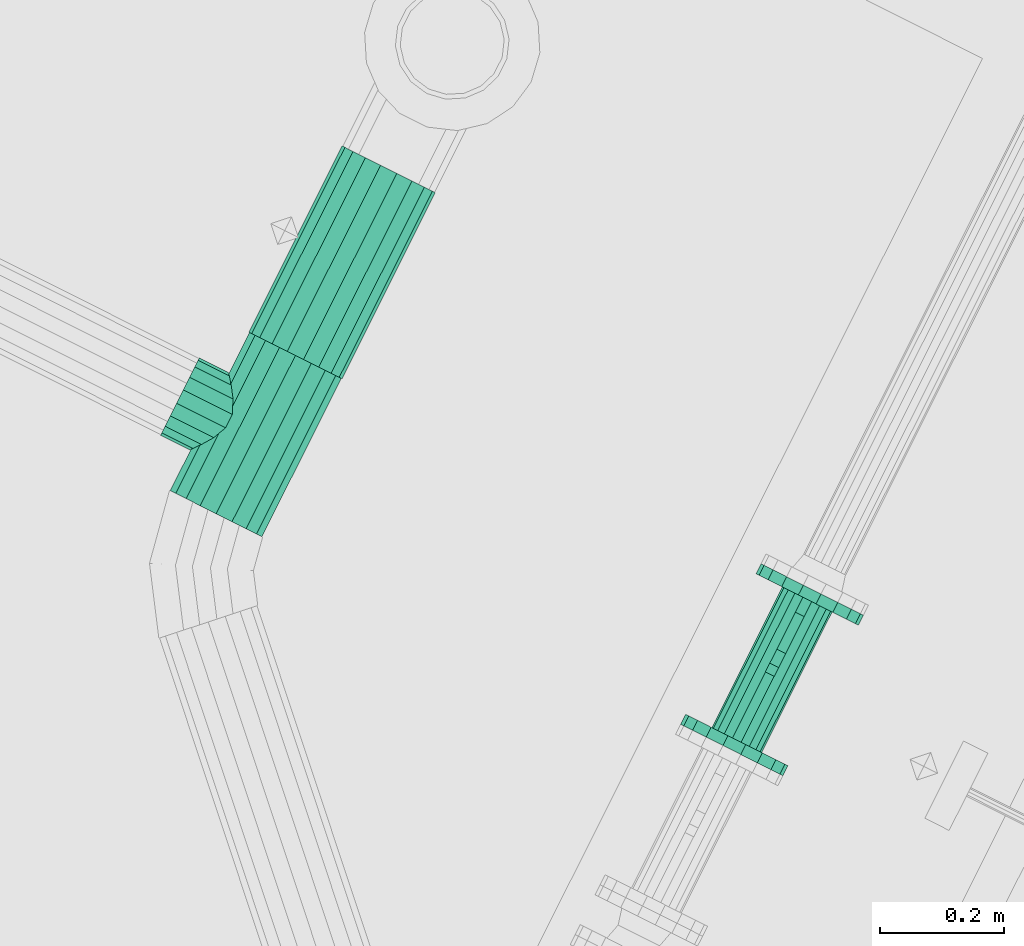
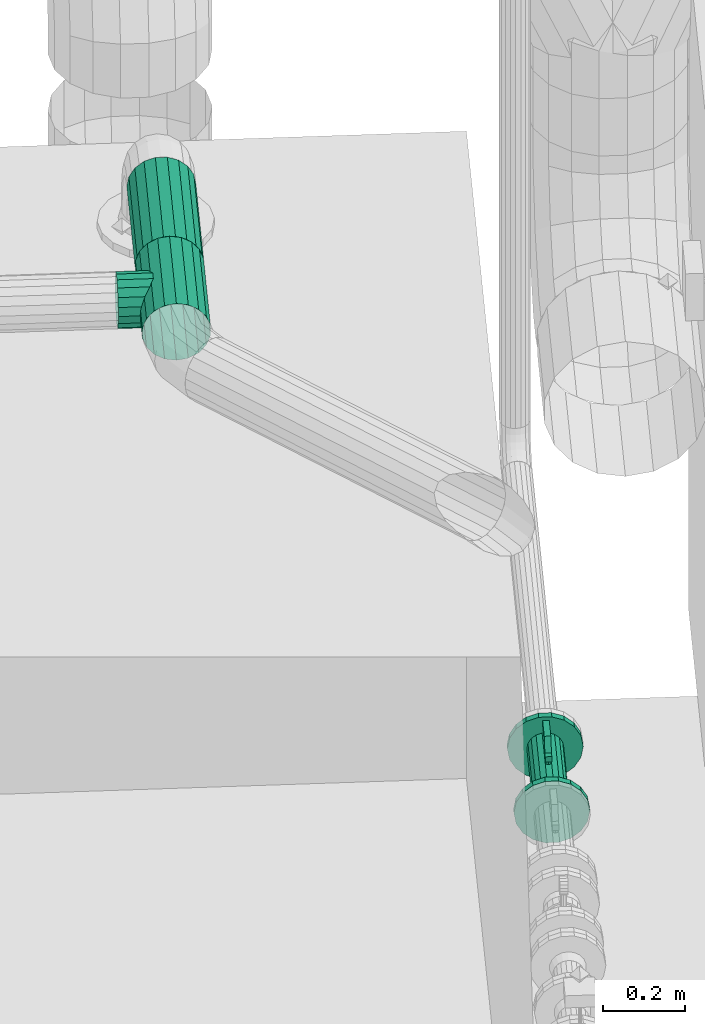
# One storey, part 114 of 206: 1 flow controller, 1 flow fitting, 1 flow segment.
"""IFC2X3 building model written with IfcOpenShell, lengths in metres."""

from ifc_helpers import new_model, si_unit, derived_unit, direction, frame, origin, place, context, subcontext, project, spatial, face_set, surface_model, source, transform, mapped, material, type_object, type_shapes, element, save


model = new_model("IFC2X3")

# Units and contexts
model_context = context("Model", 3, precision=5.2338327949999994e-05, world=origin(), true_north=direction((0.0, 1.0)))
body_context = subcontext(model_context, "Body", "Model", "MODEL_VIEW")
ifc_project = project(units=[si_unit("LENGTHUNIT", "METRE"), si_unit("AREAUNIT", "SQUARE_METRE"), si_unit("VOLUMEUNIT", "CUBIC_METRE"), si_unit("MASSUNIT", "GRAM", prefix="KILO"), si_unit("PLANEANGLEUNIT", "RADIAN"), derived_unit("THERMALTRANSMITTANCEUNIT", [(si_unit("MASSUNIT", "GRAM", prefix="KILO"), 1), (si_unit("THERMODYNAMICTEMPERATUREUNIT", "KELVIN"), -1), (si_unit("TIMEUNIT", "SECOND"), -3)])], contexts=[model_context])

# Site, building, storey
site_placement = place(None, frame((0.0, 0.0, 0.0), z_axis=(0.0, 0.0, 1.0), x_axis=(0.8939966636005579, -0.4480736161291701, 0.0)))
site = spatial("IfcSite", under=ifc_project, at=site_placement, Name="Default", CompositionType="ELEMENT")
building_placement = place(site_placement, origin())
building = spatial("IfcBuilding", under=site, at=building_placement, CompositionType="ELEMENT")
storey_placement = place(building_placement, origin())
storey = spatial("IfcBuildingStorey", under=building, at=storey_placement, Name="Erdgeschoss", CompositionType="ELEMENT", Elevation=0.0)

# Flow fitting
ifc_material_1 = material(Name="IfcSurfaceStyle #9317")
distribution_element_type_1 = type_object("IfcDistributionElementType", Name="Abzweigstück 316911:Abzweigstück 316911", material=ifc_material_1)
shared_shape_1 = source(origin(), body_context, "Body", "SurfaceModel", [
    surface_model("IfcFaceBasedSurfaceModel", [(21.44094787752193, 6.5159610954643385, 2.4381499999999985), (21.469728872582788, 6.5159610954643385, 2.433075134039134), (21.469728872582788, 6.801961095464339, 2.433075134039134), (21.44094787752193, 6.801961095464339, 2.4381499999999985), (21.495038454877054, 6.5159610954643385, 2.4184626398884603), (21.495038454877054, 6.801961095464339, 2.4184626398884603), (21.51382391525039, 6.5159610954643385, 2.396075), (21.51382391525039, 6.801961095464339, 2.396075), (21.523819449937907, 6.5159610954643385, 2.36861249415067), (21.523819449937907, 6.801961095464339, 2.36861249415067), (21.523819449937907, 6.5159610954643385, 2.339387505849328), (21.523819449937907, 6.801961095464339, 2.339387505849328), (21.51382391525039, 6.5159610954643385, 2.3119250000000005), (21.51382391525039, 6.801961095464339, 2.3119250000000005), (21.495038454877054, 6.5159610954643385, 2.28953736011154), (21.495038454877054, 6.801961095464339, 2.28953736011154), (21.469728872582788, 6.5159610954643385, 2.2749248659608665), (21.469728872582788, 6.801961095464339, 2.2749248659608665), (21.44094787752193, 6.515961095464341, 2.26985), (21.44094787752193, 6.801961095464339, 2.2698500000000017), (21.412166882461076, 6.5159610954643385, 2.2749248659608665), (21.412166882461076, 6.801961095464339, 2.2749248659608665), (21.38685730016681, 6.5159610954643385, 2.289537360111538), (21.38685730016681, 6.801961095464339, 2.289537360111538), (21.36807183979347, 6.5159610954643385, 2.311925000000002), (21.36807183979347, 6.801961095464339, 2.311925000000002), (21.358076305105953, 6.5159610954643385, 2.339387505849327), (21.358076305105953, 6.801961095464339, 2.339387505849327), (21.358076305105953, 6.5159610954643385, 2.3686124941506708), (21.358076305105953, 6.801961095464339, 2.3686124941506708), (21.368071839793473, 6.5159610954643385, 2.396075), (21.368071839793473, 6.801961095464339, 2.396075), (21.38685730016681, 6.5159610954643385, 2.4184626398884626), (21.38685730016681, 6.801961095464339, 2.4184626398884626), (21.41216688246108, 6.5159610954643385, 2.433075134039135), (21.41216688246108, 6.801961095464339, 2.433075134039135), (21.356797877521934, 6.728811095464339, 2.3540000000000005), (21.360260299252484, 6.724598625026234, 2.330109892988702), (21.30394787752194, 6.724598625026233, 2.3301098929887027), (21.30394787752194, 6.728811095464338, 2.3540000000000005), (21.36977676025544, 6.7124692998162, 2.3091012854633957), (21.303947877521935, 6.712469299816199, 2.3091012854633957), (21.382450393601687, 6.6938860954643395, 2.2935081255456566), (21.30394787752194, 6.6938860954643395, 2.293508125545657), (21.39247808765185, 6.671090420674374, 2.285211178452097), (21.303947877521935, 6.671090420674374, 2.2852111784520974), (21.39247808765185, 6.646831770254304, 2.285211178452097), (21.303947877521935, 6.646831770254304, 2.2852111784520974), (21.382450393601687, 6.624036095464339, 2.293508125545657), (21.30394787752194, 6.624036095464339, 2.2935081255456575), (21.36977676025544, 6.60545289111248, 2.3091012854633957), (21.303947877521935, 6.6054528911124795, 2.3091012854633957), (21.360260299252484, 6.593323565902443, 2.330109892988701), (21.30394787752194, 6.593323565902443, 2.330109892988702), (21.356797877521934, 6.5891110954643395, 2.3540000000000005), (21.30394787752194, 6.5891110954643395, 2.3540000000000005), (21.360260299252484, 6.593323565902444, 2.3778901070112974), (21.303947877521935, 6.593323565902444, 2.3778901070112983), (21.36977676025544, 6.6054528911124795, 2.398898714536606), (21.303947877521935, 6.6054528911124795, 2.3988987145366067), (21.382450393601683, 6.624036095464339, 2.414491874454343), (21.303947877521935, 6.624036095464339, 2.4144918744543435), (21.39247808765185, 6.646831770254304, 2.422788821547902), (21.303947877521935, 6.646831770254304, 2.422788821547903), (21.39247808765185, 6.671090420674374, 2.4227888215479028), (21.303947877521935, 6.671090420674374, 2.4227888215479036), (21.382450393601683, 6.6938860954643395, 2.4144918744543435), (21.303947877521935, 6.6938860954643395, 2.414491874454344), (21.36977676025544, 6.7124692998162, 2.398898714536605), (21.303947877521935, 6.7124692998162, 2.398898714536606), (21.360260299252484, 6.724598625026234, 2.3778901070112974), (21.303947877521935, 6.724598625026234, 2.3778901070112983)], [face_set([[[0, 1, 2, 3]], [[1, 4, 5, 2]], [[4, 6, 7, 5]], [[6, 8, 9, 7]], [[8, 10, 11, 9]], [[10, 12, 13, 11]], [[12, 14, 15, 13]], [[14, 16, 17, 15]], [[16, 18, 19, 17]], [[18, 20, 21, 19]], [[20, 22, 23, 21]], [[22, 24, 25, 23]], [[24, 26, 27, 25]], [[26, 28, 29, 27]], [[28, 30, 31, 29]], [[30, 32, 33, 31]], [[32, 34, 35, 33]], [[34, 0, 3, 35]], [[36, 37, 38, 39]], [[37, 40, 41, 38]], [[40, 42, 43, 41]], [[42, 44, 45, 43]], [[44, 46, 47, 45]], [[46, 48, 49, 47]], [[48, 50, 51, 49]], [[50, 52, 53, 51]], [[52, 54, 55, 53]], [[54, 56, 57, 55]], [[56, 58, 59, 57]], [[58, 60, 61, 59]], [[60, 62, 63, 61]], [[62, 64, 65, 63]], [[64, 66, 67, 65]], [[66, 68, 69, 67]], [[68, 70, 71, 69]], [[70, 36, 39, 71]]])]),
])
type_shapes(distribution_element_type_1, [shared_shape_1])
flow_fitting_placement = place(storey_placement, origin())
element("IfcFlowFitting", 1, at=flow_fitting_placement, inside=storey, type_object=distribution_element_type_1, material=ifc_material_1, Name="Abzweigstück", ObjectType="Abzweigstück", context=body_context, shape_type="MappedRepresentation", body=[
    mapped(shared_shape_1, transform((0.0, 0.0, 0.0), scale=1.0)),
])

# Flow segment
distribution_element_type_2 = type_object("IfcDistributionElementType", Name="Stahlrohr nach DIN 2448 317104:Stahlrohr nach DIN 2448 317104", material=ifc_material_1)
shared_shape_2 = source(origin(), body_context, "Body", "SurfaceModel", [
    surface_model("IfcFaceBasedSurfaceModel", [(21.525097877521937, 7.138307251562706, 2.353999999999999), (21.52002301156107, 7.138307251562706, 2.382780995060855), (21.52002301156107, 6.80196109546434, 2.3827809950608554), (21.525097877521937, 6.80196109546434, 2.354), (21.505410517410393, 7.138307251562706, 2.4080905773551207), (21.505410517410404, 6.80196109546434, 2.408090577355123), (21.48302287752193, 7.138307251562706, 2.4268760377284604), (21.48302287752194, 6.80196109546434, 2.426876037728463), (21.455560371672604, 7.138307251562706, 2.4368715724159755), (21.45556037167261, 6.80196109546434, 2.43687157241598), (21.426335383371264, 7.138307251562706, 2.4368715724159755), (21.426335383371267, 6.80196109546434, 2.4368715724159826), (21.39887287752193, 7.138307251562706, 2.426876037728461), (21.398872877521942, 6.80196109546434, 2.4268760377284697), (21.37648523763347, 7.138307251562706, 2.4080905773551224), (21.37648523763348, 6.80196109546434, 2.4080905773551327), (21.361872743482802, 7.138307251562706, 2.3827809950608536), (21.361872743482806, 6.80196109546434, 2.382780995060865), (21.356797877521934, 7.138307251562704, 2.3539999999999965), (21.356797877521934, 6.801961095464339, 2.3540000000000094), (21.3618727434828, 7.138307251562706, 2.3252190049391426), (21.36187274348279, 6.801961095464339, 2.3252190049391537), (21.37648523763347, 7.138307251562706, 2.2999094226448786), (21.376485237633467, 6.80196109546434, 2.2999094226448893), (21.39887287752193, 7.138307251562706, 2.281123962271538), (21.39887287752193, 6.80196109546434, 2.281123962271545), (21.42633538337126, 7.138307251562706, 2.271128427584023), (21.42633538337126, 6.80196109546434, 2.2711284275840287), (21.455560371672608, 7.138307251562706, 2.271128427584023), (21.4555603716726, 6.80196109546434, 2.271128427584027), (21.48302287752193, 7.138307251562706, 2.2811239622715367), (21.483022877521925, 6.80196109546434, 2.281123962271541), (21.505410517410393, 7.138307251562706, 2.299909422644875), (21.50541051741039, 6.80196109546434, 2.2999094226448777), (21.52002301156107, 7.138307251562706, 2.325219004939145), (21.52002301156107, 6.80196109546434, 2.3252190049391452)], [face_set([[[0, 1, 2, 3]], [[1, 4, 5, 2]], [[4, 6, 7, 5]], [[6, 8, 9, 7]], [[8, 10, 11, 9]], [[10, 12, 13, 11]], [[12, 14, 15, 13]], [[14, 16, 17, 15]], [[16, 18, 19, 17]], [[18, 20, 21, 19]], [[20, 22, 23, 21]], [[22, 24, 25, 23]], [[24, 26, 27, 25]], [[26, 28, 29, 27]], [[28, 30, 31, 29]], [[30, 32, 33, 31]], [[32, 34, 35, 33]], [[34, 0, 3, 35]]])]),
])
type_shapes(distribution_element_type_2, [shared_shape_2])
flow_segment_placement = place(storey_placement, origin())
element("IfcFlowSegment", 2, at=flow_segment_placement, inside=storey, type_object=distribution_element_type_2, material=ifc_material_1, Name="Stahlrohr nach DIN 2448", ObjectType="Stahlrohr nach DIN 2448", context=body_context, shape_type="MappedRepresentation", body=[
    mapped(shared_shape_2, transform((0.0, 0.0, 0.0), scale=1.0)),
])

# Flow controller
ifc_material_2 = material(Name="IfcSurfaceStyle #352577")
distribution_element_type_3 = type_object("IfcDistributionElementType", Name="Absperrklappe:Absperrklappe", material=ifc_material_2)
shared_shape_3 = source(origin(), body_context, "Body", "SurfaceModel", [
    surface_model("IfcFaceBasedSurfaceModel", [(22.364766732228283, 6.700958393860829, 0.9219999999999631), (22.364766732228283, 6.68495839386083, 0.9219999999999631), (22.34876673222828, 6.68495839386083, 0.9219999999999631), (22.34876673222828, 6.700958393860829, 0.9219999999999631), (22.364766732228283, 6.68495839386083, 0.9379999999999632), (22.34876673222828, 6.68495839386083, 0.9379999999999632), (22.364766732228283, 6.700958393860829, 0.9379999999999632), (22.34876673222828, 6.700958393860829, 0.9379999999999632), (22.364766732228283, 6.7262917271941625, 0.9699999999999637), (22.34876673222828, 6.7262917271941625, 0.9699999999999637), (22.364766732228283, 6.792958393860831, 0.9699999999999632), (22.34876673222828, 6.792958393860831, 0.9699999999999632), (22.364766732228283, 6.792958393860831, 0.9539999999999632), (22.34876673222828, 6.792958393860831, 0.9539999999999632), (22.364766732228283, 6.7262917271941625, 0.9539999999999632), (22.34876673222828, 6.7262917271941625, 0.9539999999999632), (22.449266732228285, 6.54795839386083, 0.869999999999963), (22.44368829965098, 6.54795839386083, 0.8383631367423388), (22.44368829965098, 6.56595839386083, 0.8383631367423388), (22.449266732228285, 6.56595839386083, 0.869999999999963), (22.427625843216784, 6.54795839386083, 0.8105421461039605), (22.427625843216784, 6.56595839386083, 0.8105421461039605), (22.40301673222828, 6.54795839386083, 0.7898926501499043), (22.40301673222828, 6.56595839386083, 0.7898926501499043), (22.372829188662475, 6.54795839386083, 0.7789052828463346), (22.372829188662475, 6.56595839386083, 0.7789052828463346), (22.340704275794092, 6.54795839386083, 0.7789052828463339), (22.340704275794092, 6.56595839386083, 0.7789052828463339), (22.310516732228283, 6.54795839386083, 0.7898926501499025), (22.310516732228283, 6.56595839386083, 0.7898926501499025), (22.28590762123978, 6.54795839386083, 0.8105421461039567), (22.28590762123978, 6.56595839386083, 0.8105421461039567), (22.269845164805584, 6.54795839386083, 0.8383631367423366), (22.269845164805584, 6.56595839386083, 0.8383631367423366), (22.264266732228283, 6.54795839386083, 0.8699999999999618), (22.264266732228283, 6.56595839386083, 0.8699999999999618), (22.269845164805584, 6.54795839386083, 0.9016368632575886), (22.269845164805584, 6.56595839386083, 0.9016368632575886), (22.28590762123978, 6.54795839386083, 0.9294578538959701), (22.28590762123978, 6.56595839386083, 0.9294578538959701), (22.310516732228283, 6.54795839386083, 0.9501073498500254), (22.310516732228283, 6.56595839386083, 0.9501073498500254), (22.340704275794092, 6.54795839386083, 0.9610947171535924), (22.340704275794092, 6.56595839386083, 0.9610947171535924), (22.372829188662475, 6.54795839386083, 0.9610947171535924), (22.372829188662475, 6.56595839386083, 0.9610947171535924), (22.40301673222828, 6.54795839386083, 0.9501073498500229), (22.40301673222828, 6.56595839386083, 0.9501073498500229), (22.427625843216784, 6.54795839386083, 0.9294578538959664), (22.427625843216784, 6.56595839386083, 0.9294578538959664), (22.44368829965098, 6.54795839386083, 0.9016368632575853), (22.44368829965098, 6.56595839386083, 0.9016368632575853), (22.356766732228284, 6.54795839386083, 0.869999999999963), (22.356766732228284, 6.565958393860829, 0.869999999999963), (22.401766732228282, 6.56595839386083, 0.869999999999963), (22.399052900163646, 6.56595839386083, 0.8546090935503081), (22.399052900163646, 6.819958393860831, 0.8546090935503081), (22.401766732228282, 6.819958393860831, 0.869999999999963), (22.391238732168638, 6.56595839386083, 0.8410745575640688), (22.391238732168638, 6.819958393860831, 0.8410745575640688), (22.379266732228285, 6.56595839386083, 0.8310288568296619), (22.379266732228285, 6.819958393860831, 0.8310288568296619), (22.364580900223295, 6.56595839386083, 0.8256836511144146), (22.364580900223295, 6.819958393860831, 0.8256836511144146), (22.34895256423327, 6.56595839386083, 0.8256836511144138), (22.34895256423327, 6.819958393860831, 0.8256836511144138), (22.33426673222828, 6.56595839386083, 0.8310288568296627), (22.33426673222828, 6.819958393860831, 0.8310288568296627), (22.322294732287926, 6.56595839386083, 0.8410745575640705), (22.322294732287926, 6.819958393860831, 0.8410745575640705), (22.314480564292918, 6.56595839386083, 0.8546090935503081), (22.314480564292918, 6.819958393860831, 0.8546090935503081), (22.311766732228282, 6.56595839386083, 0.869999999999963), (22.311766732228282, 6.819958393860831, 0.869999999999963), (22.314480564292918, 6.56595839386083, 0.8853909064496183), (22.314480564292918, 6.819958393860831, 0.8853909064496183), (22.322294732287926, 6.56595839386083, 0.8989254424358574), (22.322294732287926, 6.819958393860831, 0.8989254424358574), (22.33426673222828, 6.56595839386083, 0.9089711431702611), (22.33426673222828, 6.819958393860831, 0.9089711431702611), (22.34895256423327, 6.56595839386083, 0.9143163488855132), (22.34895256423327, 6.819958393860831, 0.9143163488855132), (22.364580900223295, 6.56595839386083, 0.9143163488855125), (22.364580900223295, 6.819958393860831, 0.9143163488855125), (22.379266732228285, 6.56595839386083, 0.9089711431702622), (22.379266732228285, 6.819958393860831, 0.9089711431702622), (22.391238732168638, 6.56595839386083, 0.8989254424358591), (22.391238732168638, 6.819958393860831, 0.8989254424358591), (22.399052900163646, 6.56595839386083, 0.8853909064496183), (22.399052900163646, 6.819958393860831, 0.8853909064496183), (22.449266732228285, 6.819958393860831, 0.869999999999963), (22.44368829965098, 6.819958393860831, 0.8383631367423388), (22.44368829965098, 6.83795839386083, 0.8383631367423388), (22.449266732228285, 6.83795839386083, 0.869999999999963), (22.427625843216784, 6.819958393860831, 0.8105421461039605), (22.427625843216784, 6.83795839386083, 0.8105421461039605), (22.40301673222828, 6.819958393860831, 0.7898926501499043), (22.40301673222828, 6.83795839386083, 0.7898926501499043), (22.372829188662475, 6.819958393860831, 0.7789052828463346), (22.372829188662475, 6.83795839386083, 0.7789052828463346), (22.340704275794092, 6.819958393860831, 0.7789052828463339), (22.340704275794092, 6.83795839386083, 0.7789052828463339), (22.310516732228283, 6.819958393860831, 0.7898926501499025), (22.310516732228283, 6.83795839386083, 0.7898926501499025), (22.28590762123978, 6.819958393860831, 0.8105421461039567), (22.28590762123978, 6.83795839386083, 0.8105421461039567), (22.269845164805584, 6.819958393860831, 0.8383631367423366), (22.269845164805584, 6.83795839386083, 0.8383631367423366), (22.264266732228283, 6.819958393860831, 0.8699999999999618), (22.264266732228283, 6.83795839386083, 0.8699999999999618), (22.269845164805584, 6.819958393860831, 0.9016368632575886), (22.269845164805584, 6.83795839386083, 0.9016368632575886), (22.28590762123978, 6.819958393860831, 0.9294578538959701), (22.28590762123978, 6.83795839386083, 0.9294578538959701), (22.310516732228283, 6.819958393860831, 0.9501073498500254), (22.310516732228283, 6.83795839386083, 0.9501073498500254), (22.340704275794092, 6.819958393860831, 0.9610947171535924), (22.340704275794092, 6.83795839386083, 0.9610947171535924), (22.372829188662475, 6.819958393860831, 0.9610947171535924), (22.372829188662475, 6.83795839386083, 0.9610947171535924), (22.40301673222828, 6.819958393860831, 0.9501073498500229), (22.40301673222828, 6.83795839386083, 0.9501073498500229), (22.427625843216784, 6.819958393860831, 0.9294578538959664), (22.427625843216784, 6.83795839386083, 0.9294578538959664), (22.44368829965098, 6.819958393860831, 0.9016368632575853), (22.44368829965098, 6.83795839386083, 0.9016368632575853), (22.356766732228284, 6.819958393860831, 0.869999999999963), (22.356766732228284, 6.837958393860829, 0.869999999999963), (22.356766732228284, 6.700958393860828, 0.869999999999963), (22.351109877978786, 6.698615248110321, 0.869999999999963), (22.351109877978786, 6.698615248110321, 0.9219999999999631), (22.356766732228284, 6.700958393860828, 0.9219999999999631), (22.34876673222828, 6.6929583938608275, 0.869999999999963), (22.34876673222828, 6.6929583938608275, 0.9219999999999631), (22.351109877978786, 6.687301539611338, 0.869999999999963), (22.351109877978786, 6.687301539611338, 0.9219999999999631), (22.356766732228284, 6.68495839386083, 0.869999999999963), (22.356766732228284, 6.68495839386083, 0.9219999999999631), (22.362423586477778, 6.687301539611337, 0.869999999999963), (22.362423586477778, 6.687301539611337, 0.9219999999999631), (22.364766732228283, 6.6929583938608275, 0.869999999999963), (22.364766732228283, 6.6929583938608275, 0.9219999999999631), (22.362423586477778, 6.6986152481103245, 0.869999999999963), (22.362423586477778, 6.6986152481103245, 0.9219999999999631)], [face_set([[[0, 1, 2, 3]], [[1, 4, 5, 2]], [[4, 6, 7, 5]], [[6, 8, 9, 7]], [[8, 10, 11, 9]], [[10, 12, 13, 11]], [[12, 14, 15, 13]], [[14, 0, 3, 15]], [[2, 7, 3]], [[9, 3, 7]], [[3, 9, 15]], [[11, 15, 9]], [[15, 11, 13]], [[7, 2, 5]], [[0, 6, 1]], [[6, 0, 8]], [[14, 8, 0]], [[8, 14, 10]], [[12, 10, 14]], [[4, 1, 6]], [[16, 17, 18, 19]], [[17, 20, 21, 18]], [[20, 22, 23, 21]], [[22, 24, 25, 23]], [[24, 26, 27, 25]], [[26, 28, 29, 27]], [[28, 30, 31, 29]], [[30, 32, 33, 31]], [[32, 34, 35, 33]], [[34, 36, 37, 35]], [[36, 38, 39, 37]], [[38, 40, 41, 39]], [[40, 42, 43, 41]], [[42, 44, 45, 43]], [[44, 46, 47, 45]], [[46, 48, 49, 47]], [[48, 50, 51, 49]], [[50, 16, 19, 51]], [[52, 17, 16]], [[52, 20, 17]], [[52, 22, 20]], [[52, 24, 22]], [[52, 26, 24]], [[52, 28, 26]], [[52, 30, 28]], [[52, 32, 30]], [[52, 34, 32]], [[52, 36, 34]], [[52, 38, 36]], [[52, 40, 38]], [[52, 42, 40]], [[52, 44, 42]], [[52, 46, 44]], [[52, 48, 46]], [[52, 50, 48]], [[52, 16, 50]], [[53, 51, 19]], [[53, 49, 51]], [[53, 47, 49]], [[53, 45, 47]], [[53, 43, 45]], [[53, 41, 43]], [[53, 39, 41]], [[53, 37, 39]], [[53, 35, 37]], [[53, 33, 35]], [[53, 31, 33]], [[53, 29, 31]], [[53, 27, 29]], [[53, 25, 27]], [[53, 23, 25]], [[53, 21, 23]], [[53, 18, 21]], [[53, 19, 18]], [[54, 55, 56, 57]], [[55, 58, 59, 56]], [[58, 60, 61, 59]], [[60, 62, 63, 61]], [[62, 64, 65, 63]], [[64, 66, 67, 65]], [[66, 68, 69, 67]], [[68, 70, 71, 69]], [[70, 72, 73, 71]], [[72, 74, 75, 73]], [[74, 76, 77, 75]], [[76, 78, 79, 77]], [[78, 80, 81, 79]], [[80, 82, 83, 81]], [[82, 84, 85, 83]], [[84, 86, 87, 85]], [[86, 88, 89, 87]], [[88, 54, 57, 89]], [[90, 91, 92, 93]], [[91, 94, 95, 92]], [[94, 96, 97, 95]], [[96, 98, 99, 97]], [[98, 100, 101, 99]], [[100, 102, 103, 101]], [[102, 104, 105, 103]], [[104, 106, 107, 105]], [[106, 108, 109, 107]], [[108, 110, 111, 109]], [[110, 112, 113, 111]], [[112, 114, 115, 113]], [[114, 116, 117, 115]], [[116, 118, 119, 117]], [[118, 120, 121, 119]], [[120, 122, 123, 121]], [[122, 124, 125, 123]], [[124, 90, 93, 125]], [[126, 91, 90]], [[126, 94, 91]], [[126, 96, 94]], [[126, 98, 96]], [[126, 100, 98]], [[126, 102, 100]], [[126, 104, 102]], [[126, 106, 104]], [[126, 108, 106]], [[126, 110, 108]], [[126, 112, 110]], [[126, 114, 112]], [[126, 116, 114]], [[126, 118, 116]], [[126, 120, 118]], [[126, 122, 120]], [[126, 124, 122]], [[126, 90, 124]], [[127, 125, 93]], [[127, 123, 125]], [[127, 121, 123]], [[127, 119, 121]], [[127, 117, 119]], [[127, 115, 117]], [[127, 113, 115]], [[127, 111, 113]], [[127, 109, 111]], [[127, 107, 109]], [[127, 105, 107]], [[127, 103, 105]], [[127, 101, 103]], [[127, 99, 101]], [[127, 97, 99]], [[127, 95, 97]], [[127, 92, 95]], [[127, 93, 92]], [[128, 129, 130, 131]], [[129, 132, 133, 130]], [[132, 134, 135, 133]], [[134, 136, 137, 135]], [[136, 138, 139, 137]], [[138, 140, 141, 139]], [[140, 142, 143, 141]], [[142, 128, 131, 143]]])]),
])
type_shapes(distribution_element_type_3, [shared_shape_3])
flow_controller_placement = place(storey_placement, origin())
element("IfcFlowController", 3, at=flow_controller_placement, inside=storey, type_object=distribution_element_type_3, material=ifc_material_2, Name="Absperrklappe", ObjectType="Absperrklappe", context=body_context, shape_type="MappedRepresentation", body=[
    mapped(shared_shape_3, transform((0.0, 0.0, 0.0), scale=1.0)),
])

save(model, "model.ifc")
